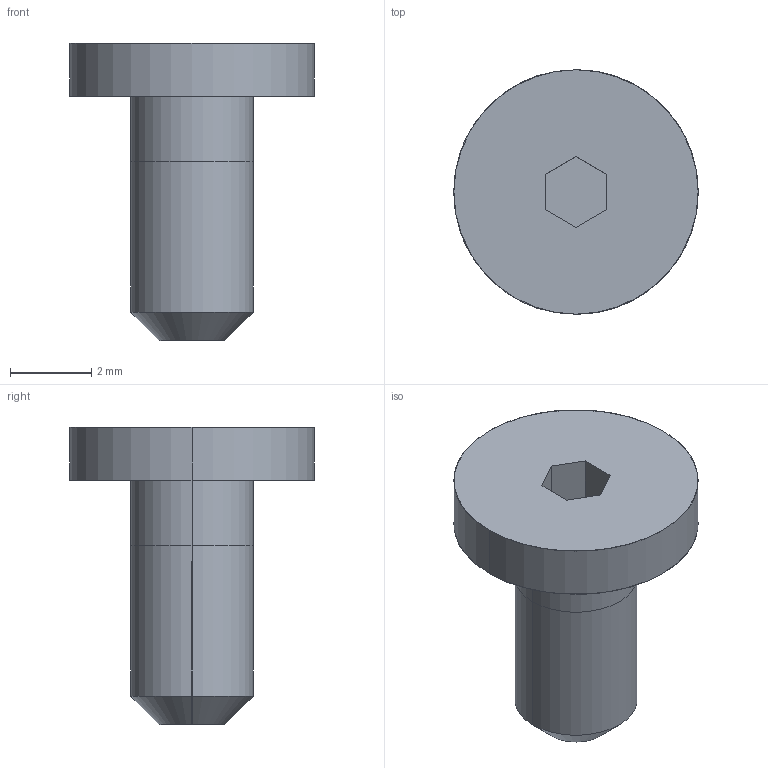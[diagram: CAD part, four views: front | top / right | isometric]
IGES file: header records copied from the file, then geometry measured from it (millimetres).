
Global section: file name: E:\UnigraphicsGraphicData\MISUMI_PRESS-PARTS\IGES\3d_cbss3-6_03493_r00.igs; native system: NX V5.0; preprocessor: UGS NX IGES V5.0; author: MISUMI; date: 20110105.160201; units: millimetre
Bounding box: 6 x 6 x 7.3 mm (x, y, z)
Surface area: 143.7 mm2 (no closed solid volume)
Topology: 0 solids, 0 shells, 18 faces, 100 edges, 100 vertices
Faces by surface type: bspline 18
